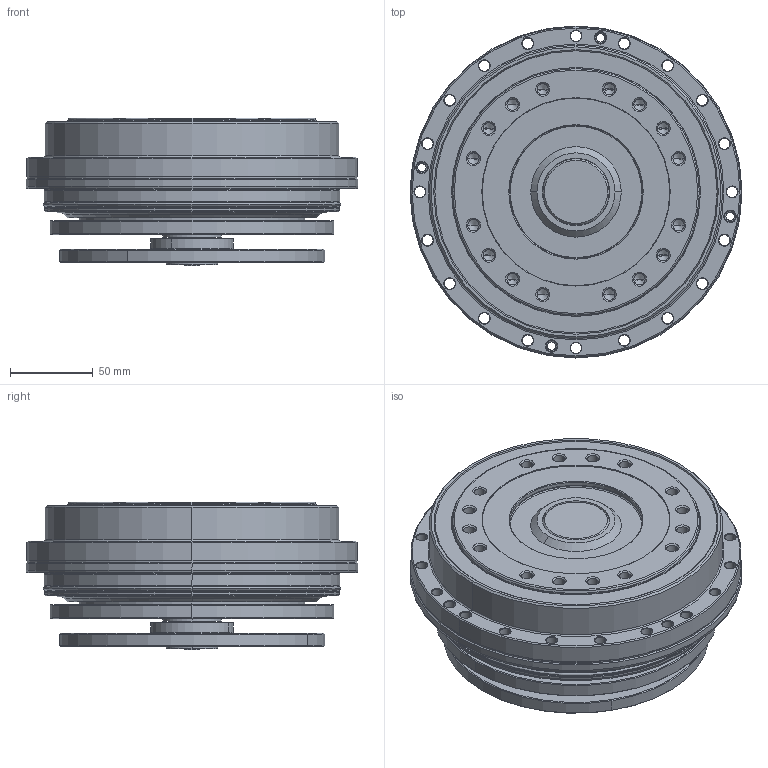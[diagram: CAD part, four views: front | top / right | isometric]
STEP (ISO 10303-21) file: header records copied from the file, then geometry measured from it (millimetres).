
FILE_DESCRIPTION (( 'STEP AP203' ), '1' );
FILE_NAME ('PSC080-V-E-XXX-X-XX-F-0.STEP', '2020-08-20T13:08:54', ( '' ), ( '' ), 'SwSTEP 2.0', 'SolidWorks 2017', '' );
FILE_SCHEMA (( 'CONFIG_CONTROL_DESIGN' ));
Length unit declared in the file: millimetre
Products named in the file (7): 080V-Z2; 3N4801-16-KS3-SM-01; 150x170x7 KS3-SM-00; PSC080-V-E-XXX-X-XX-F-0; VK40x7; 3N4802-05 BGR.Dichtungen PSC080V NBR; 160x2,5
Assembly tree (6 placements, depth 3):
  PSC080-V-E-XXX-X-XX-F-0
    3N4801-16-KS3-SM-01
    080V-Z2
    3N4802-05 BGR.Dichtungen PSC080V NBR
      150x170x7 KS3-SM-00
      160x2,5
      VK40x7
Bounding box: 200 x 200 x 89.1 mm (x, y, z)
Volume: 1875748.8 mm3; surface area: 216900.5 mm2
Topology: 5 solids, 5 shells, 436 faces, 954 edges, 536 vertices
Faces by surface type: cone 224, cylinder 142, plane 40, torus 30
Entity records: 12509 total; most frequent: DIRECTION 2352, CARTESIAN_POINT 1904, ORIENTED_EDGE 1844, AXIS2_PLACEMENT_3D 984, EDGE_CURVE 922, CIRCLE 538, VERTEX_POINT 536, EDGE_LOOP 530
